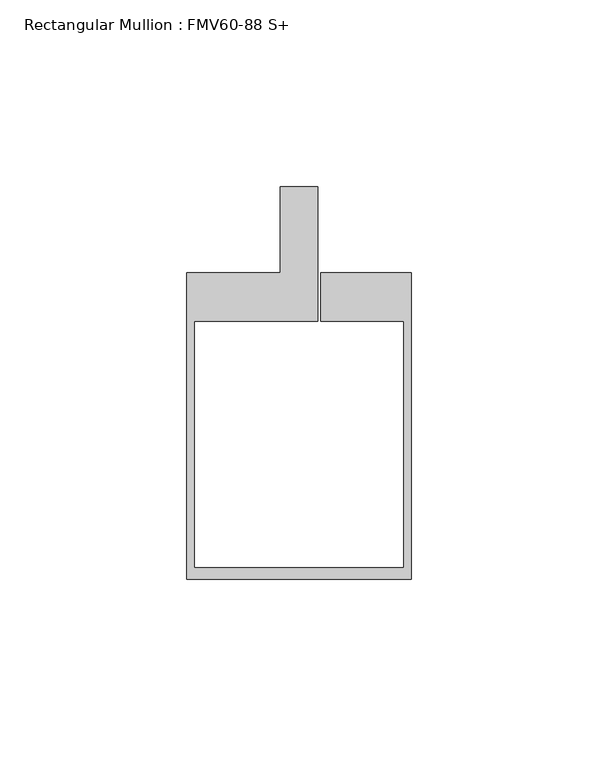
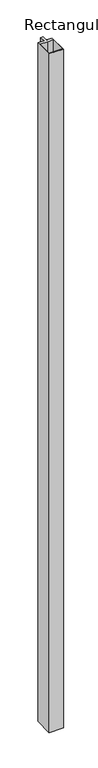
"""IFC4 building model written with IfcOpenShell, lengths in millimetres: member geometry, Rectangular Mullion : FMV60-88 S+."""

from ifc_helpers import new_model, si_unit, frame, origin, place, context, project, spatial, polyline, outline, extrude, source, transform, mapped, element, save


def rectangular_mullion_fmv60_88_s_6ca42b6d(model_context):
    return source(origin(), model_context, "Body", "SweptSolid", [
        extrude(outline(polyline([(5.0, 22.9631125), (5.0, -12.9918633), (-28.0157699, -12.9918633), (-28.0157699, -78.9963411), (27.9841045, -78.9963411), (27.9841045, -12.9918633), (5.8, -12.9918633), (5.8, 0.0115534), (29.9842301, 0.0115534), (29.9842301, -81.9963411), (-30.0157699, -81.9963411), (-30.0157699, 0.0115534), (-5.0, 0.0115534), (-5.0, 22.9631125), (5.0, 22.9631125)])), frame((0.0, 0.0, -3020.0), z_axis=(0.0, 0.0, 1.0), x_axis=(1.0, 0.0, 0.0)), (0.0, 0.0, 1.0), 3020.0),
    ])


if __name__ == "__main__":
    model = new_model("IFC4")
    model_context = context("Model", 3, world=origin())
    ifc_project = project(units=[si_unit("LENGTHUNIT", "METRE", prefix="MILLI")], contexts=[model_context])
    site = spatial("IfcSite", under=ifc_project)
    building = spatial("IfcBuilding", under=site)
    placement = place(None, origin())
    rectangular_mullion_fmv60_88_s_shape = rectangular_mullion_fmv60_88_s_6ca42b6d(model_context)
    element("IfcMember", 1, ObjectType="Rectangular Mullion : FMV60-88 S+", at=placement, inside=building, context=model_context, shape_type="MappedRepresentation", body=[
        mapped(rectangular_mullion_fmv60_88_s_shape, transform((0.0, 0.0, 0.0), x_axis=(1.0, 0.0, 0.0), y_axis=(0.0, 1.0, 0.0), z_axis=(0.0, 0.0, 1.0))),
    ])
    save(model, "model.ifc")
